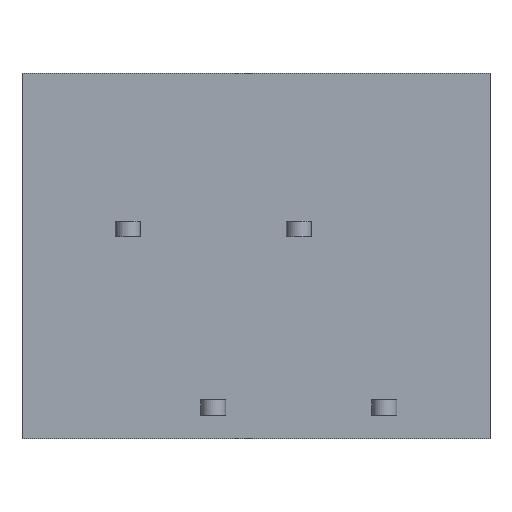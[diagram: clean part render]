
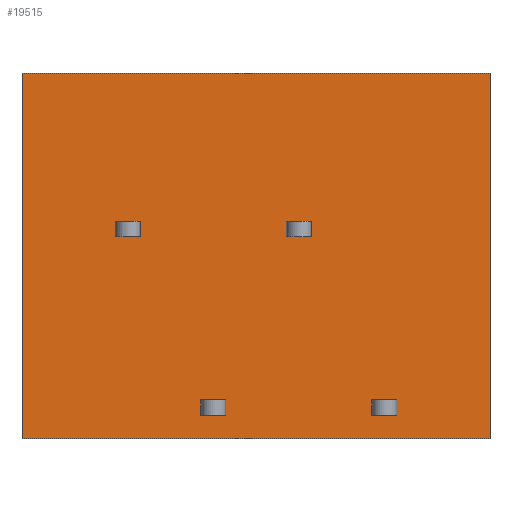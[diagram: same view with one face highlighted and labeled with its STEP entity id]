
A CAD part, front view. The second image highlights one B-rep face of the part: STEP entity #19515.
In plain terms, the highlighted planar face has unit normal (0, -1, 0).
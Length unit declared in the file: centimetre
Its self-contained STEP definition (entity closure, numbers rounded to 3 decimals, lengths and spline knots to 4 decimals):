
#1500=VERTEX_POINT('',#26386);
#1501=VERTEX_POINT('',#26387);
#1508=VERTEX_POINT('',#26403);
#1529=VERTEX_POINT('',#26458);
#1650=VERTEX_POINT('',#26860);
#1651=VERTEX_POINT('',#26861);
#1654=VERTEX_POINT('',#26869);
#1678=VERTEX_POINT('',#26929);
#1929=VERTEX_POINT('',#27746);
#1930=VERTEX_POINT('',#27747);
#1937=VERTEX_POINT('',#27763);
#1958=VERTEX_POINT('',#27818);
#1968=VERTEX_POINT('',#27862);
#1969=VERTEX_POINT('',#27863);
#1972=VERTEX_POINT('',#27871);
#1996=VERTEX_POINT('',#27931);
#2019=VERTEX_POINT('',#28015);
#2020=VERTEX_POINT('',#28016);
#2036=VERTEX_POINT('',#28065);
#2041=VERTEX_POINT('',#28083);
#3530=VECTOR('',#21741,1.);
#3538=VECTOR('',#21750,1.);
#3557=VECTOR('',#21794,1.);
#3559=VECTOR('',#21797,1.);
#3689=VECTOR('',#22084,1.);
#3693=VECTOR('',#22089,1.);
#3714=VECTOR('',#22135,1.);
#3716=VECTOR('',#22138,1.);
#3980=VECTOR('',#22726,1.);
#3988=VECTOR('',#22735,1.);
#4007=VECTOR('',#22779,1.);
#4009=VECTOR('',#22782,1.);
#4029=VECTOR('',#22813,1.);
#4033=VECTOR('',#22818,1.);
#4054=VECTOR('',#22864,1.);
#4056=VECTOR('',#22867,1.);
#4094=VECTOR('',#22928,1.);
#4117=VECTOR('',#22965,1.);
#4125=VECTOR('',#22980,1.);
#4126=VECTOR('',#22981,1.);
#5797=LINE('',#26385,#3530);
#5805=LINE('',#26402,#3538);
#5824=LINE('',#26457,#3557);
#5826=LINE('',#26461,#3559);
#5956=LINE('',#26859,#3689);
#5960=LINE('',#26868,#3693);
#5981=LINE('',#26928,#3714);
#5983=LINE('',#26932,#3716);
#6247=LINE('',#27745,#3980);
#6255=LINE('',#27762,#3988);
#6274=LINE('',#27817,#4007);
#6276=LINE('',#27821,#4009);
#6296=LINE('',#27861,#4029);
#6300=LINE('',#27870,#4033);
#6321=LINE('',#27930,#4054);
#6323=LINE('',#27934,#4056);
#6361=LINE('',#28014,#4094);
#6384=LINE('',#28064,#4117);
#6392=LINE('',#28082,#4125);
#6393=LINE('',#28084,#4126);
#8225=EDGE_CURVE('',#1500,#1501,#5797,.T.);
#8233=EDGE_CURVE('',#1508,#1500,#5805,.T.);
#8263=EDGE_CURVE('',#1529,#1508,#5824,.T.);
#8265=EDGE_CURVE('',#1501,#1529,#5826,.T.);
#8451=EDGE_CURVE('',#1650,#1651,#5956,.T.);
#8455=EDGE_CURVE('',#1654,#1650,#5960,.T.);
#8487=EDGE_CURVE('',#1678,#1654,#5981,.T.);
#8489=EDGE_CURVE('',#1651,#1678,#5983,.T.);
#8871=EDGE_CURVE('',#1929,#1930,#6247,.T.);
#8879=EDGE_CURVE('',#1937,#1929,#6255,.T.);
#8909=EDGE_CURVE('',#1958,#1937,#6274,.T.);
#8911=EDGE_CURVE('',#1930,#1958,#6276,.T.);
#8931=EDGE_CURVE('',#1968,#1969,#6296,.T.);
#8935=EDGE_CURVE('',#1972,#1968,#6300,.T.);
#8967=EDGE_CURVE('',#1996,#1972,#6321,.T.);
#8969=EDGE_CURVE('',#1969,#1996,#6323,.T.);
#9010=EDGE_CURVE('',#2019,#2020,#6361,.T.);
#9036=EDGE_CURVE('',#2019,#2036,#6384,.T.);
#9045=EDGE_CURVE('',#2020,#2041,#6392,.T.);
#9046=EDGE_CURVE('',#2041,#2036,#6393,.T.);
#13488=ORIENTED_EDGE('',*,*,#8233,.T.);
#13489=ORIENTED_EDGE('',*,*,#8225,.T.);
#13490=ORIENTED_EDGE('',*,*,#8265,.T.);
#13491=ORIENTED_EDGE('',*,*,#8263,.T.);
#13492=ORIENTED_EDGE('',*,*,#8455,.T.);
#13493=ORIENTED_EDGE('',*,*,#8451,.T.);
#13494=ORIENTED_EDGE('',*,*,#8489,.T.);
#13495=ORIENTED_EDGE('',*,*,#8487,.T.);
#13496=ORIENTED_EDGE('',*,*,#8879,.T.);
#13497=ORIENTED_EDGE('',*,*,#8871,.T.);
#13498=ORIENTED_EDGE('',*,*,#8911,.T.);
#13499=ORIENTED_EDGE('',*,*,#8909,.T.);
#13500=ORIENTED_EDGE('',*,*,#8935,.T.);
#13501=ORIENTED_EDGE('',*,*,#8931,.T.);
#13502=ORIENTED_EDGE('',*,*,#8969,.T.);
#13503=ORIENTED_EDGE('',*,*,#8967,.T.);
#13504=ORIENTED_EDGE('',*,*,#9045,.T.);
#13505=ORIENTED_EDGE('',*,*,#9046,.T.);
#13506=ORIENTED_EDGE('',*,*,#9036,.F.);
#13507=ORIENTED_EDGE('',*,*,#9010,.T.);
#17107=EDGE_LOOP('',(#13488,#13489,#13490,#13491));
#17108=EDGE_LOOP('',(#13492,#13493,#13494,#13495));
#17109=EDGE_LOOP('',(#13496,#13497,#13498,#13499));
#17110=EDGE_LOOP('',(#13500,#13501,#13502,#13503));
#17111=EDGE_LOOP('',(#13504,#13505,#13506,#13507));
#18342=FACE_BOUND('',#17107,.T.);
#18343=FACE_BOUND('',#17108,.T.);
#18344=FACE_BOUND('',#17109,.T.);
#18345=FACE_BOUND('',#17110,.T.);
#18346=FACE_BOUND('',#17111,.T.);
#19515=ADVANCED_FACE('',(#18342,#18343,#18344,#18345,#18346),#20518,.T.);
#20518=PLANE('',#33171);
#21741=DIRECTION('',(0.,0.,1.));
#21750=DIRECTION('',(-1.,0.,0.));
#21794=DIRECTION('',(0.,0.,-1.));
#21797=DIRECTION('',(1.,0.,0.));
#22084=DIRECTION('',(0.,0.,1.));
#22089=DIRECTION('',(-1.,0.,0.));
#22135=DIRECTION('',(0.,0.,-1.));
#22138=DIRECTION('',(1.,0.,0.));
#22726=DIRECTION('',(0.,0.,1.));
#22735=DIRECTION('',(-1.,0.,0.));
#22779=DIRECTION('',(0.,0.,-1.));
#22782=DIRECTION('',(1.,0.,0.));
#22813=DIRECTION('',(0.,0.,1.));
#22818=DIRECTION('',(-1.,0.,0.));
#22864=DIRECTION('',(0.,0.,-1.));
#22867=DIRECTION('',(1.,0.,0.));
#22928=DIRECTION('',(0.,0.,-1.));
#22965=DIRECTION('',(1.,0.,0.));
#22979=DIRECTION('',(0.,-1.,0.));
#22980=DIRECTION('',(1.,0.,0.));
#22981=DIRECTION('',(0.,0.,1.));
#26385=CARTESIAN_POINT('',(1.13,0.,0.975));
#26386=CARTESIAN_POINT('',(1.13,0.,1.3));
#26387=CARTESIAN_POINT('',(1.13,0.,1.4));
#26402=CARTESIAN_POINT('',(1.705,0.,1.3));
#26403=CARTESIAN_POINT('',(1.29,0.,1.3));
#26457=CARTESIAN_POINT('',(1.29,0.,0.975));
#26458=CARTESIAN_POINT('',(1.29,0.,1.4));
#26461=CARTESIAN_POINT('',(1.705,0.,1.4));
#26859=CARTESIAN_POINT('',(1.68,0.,0.4));
#26860=CARTESIAN_POINT('',(1.68,0.,0.15));
#26861=CARTESIAN_POINT('',(1.68,0.,0.25));
#26868=CARTESIAN_POINT('',(1.98,0.,0.15));
#26869=CARTESIAN_POINT('',(1.84,0.,0.15));
#26928=CARTESIAN_POINT('',(1.84,0.,0.4));
#26929=CARTESIAN_POINT('',(1.84,0.,0.25));
#26932=CARTESIAN_POINT('',(1.98,0.,0.25));
#27745=CARTESIAN_POINT('',(0.03,0.,0.975));
#27746=CARTESIAN_POINT('',(0.03,0.,1.3));
#27747=CARTESIAN_POINT('',(0.03,0.,1.4));
#27762=CARTESIAN_POINT('',(0.055,0.,1.3));
#27763=CARTESIAN_POINT('',(0.19,0.,1.3));
#27817=CARTESIAN_POINT('',(0.19,0.,0.975));
#27818=CARTESIAN_POINT('',(0.19,0.,1.4));
#27821=CARTESIAN_POINT('',(0.055,0.,1.4));
#27861=CARTESIAN_POINT('',(0.58,0.,0.4));
#27862=CARTESIAN_POINT('',(0.58,0.,0.15));
#27863=CARTESIAN_POINT('',(0.58,0.,0.25));
#27870=CARTESIAN_POINT('',(0.33,0.,0.15));
#27871=CARTESIAN_POINT('',(0.74,0.,0.15));
#27930=CARTESIAN_POINT('',(0.74,0.,0.4));
#27931=CARTESIAN_POINT('',(0.74,0.,0.25));
#27934=CARTESIAN_POINT('',(0.33,0.,0.25));
#28014=CARTESIAN_POINT('',(-0.57,0.,2.35));
#28015=CARTESIAN_POINT('',(-0.57,0.,2.35));
#28016=CARTESIAN_POINT('',(-0.57,0.,0.));
#28064=CARTESIAN_POINT('',(-0.57,0.,2.35));
#28065=CARTESIAN_POINT('',(2.44,0.,2.35));
#28081=CARTESIAN_POINT('',(2.2,0.,0.6));
#28082=CARTESIAN_POINT('',(2.2,0.,0.));
#28083=CARTESIAN_POINT('',(2.44,0.,0.));
#28084=CARTESIAN_POINT('',(2.44,0.,1.2));
#33171=AXIS2_PLACEMENT_3D('',#28081,#22979,$);
